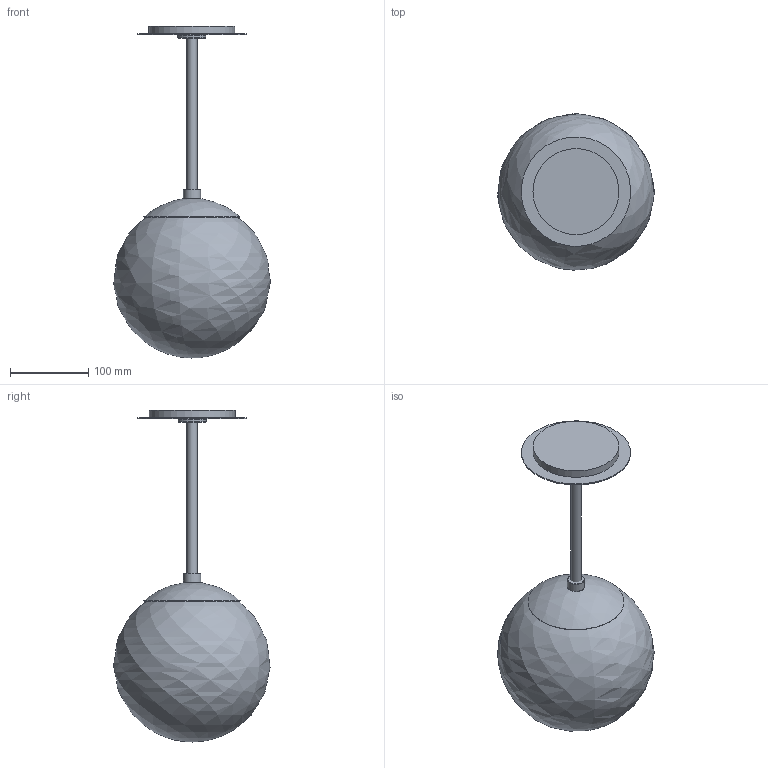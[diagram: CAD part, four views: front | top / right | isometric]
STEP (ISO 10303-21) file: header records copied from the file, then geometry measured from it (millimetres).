
FILE_DESCRIPTION(/* description */ (''),/* implementation_level */ '2;1');
FILE_NAME(/* name */ 'T:\B581 Globe Singe Pendant F_200\Pliki bryłowe handlowe\B581 Globe Single 3D files_na stronę\B581 Globe Single.stp',/* time_stamp */ '2022-02-02T16:22:02+01:00',/* author */ ('Mariusz Awariusz'),/* organization */ (''),/* preprocessor_version */ 'ST-DEVELOPER v18.1',/* originating_system */ 'Autodesk Inventor 2022',/* authorisation */ '');
FILE_SCHEMA (('AUTOMOTIVE_DESIGN { 1 0 10303 214 3 1 1 }'));
Length unit declared in the file: millimetre
Products named in the file (1): B581 Globe Singe Pendant F_200 CE V1_na potrzeby plików 3D_2_jako
 część_korpusy bryłowe
Bounding box: 199.99 x 200.03 x 424.93 mm (x, y, z)
Volume: 409703.3 mm3; surface area: 332124.8 mm2
Topology: 7 solids, 7 shells, 42 faces, 67 edges, 42 vertices
Faces by surface type: plane 15, cylinder 12, cone 9, sphere 2, torus 2, bspline 2
Full cylindrical faces by diameter (mm): 11.6 x1, 13 x2, 14.7 x1, 16 x2, 22 x1, 34.5 x1, 36 x1, 80.221 x1, 110 x1, 140 x1
Entity records: 1080 total; most frequent: CARTESIAN_POINT 238, DIRECTION 191, ORIENTED_EDGE 130, AXIS2_PLACEMENT_3D 85, EDGE_CURVE 65, EDGE_LOOP 49, CIRCLE 44, FACE_OUTER_BOUND 42
